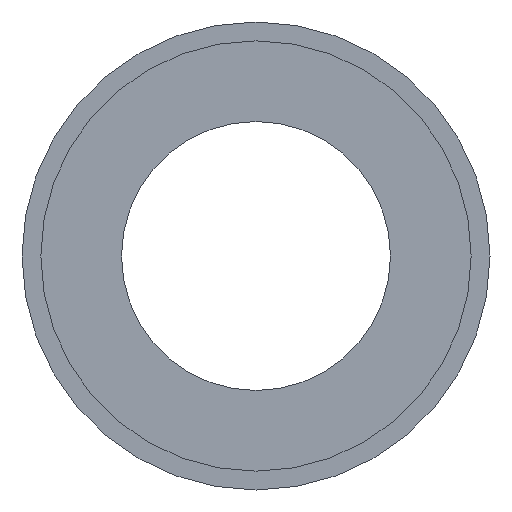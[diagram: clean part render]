
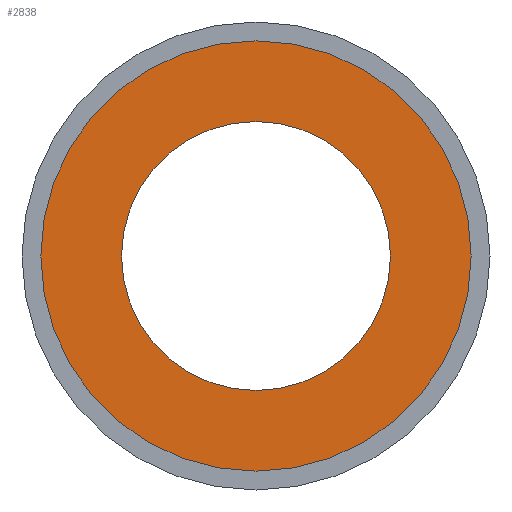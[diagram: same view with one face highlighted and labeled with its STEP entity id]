
A CAD part, front view. The second image highlights one B-rep face of the part: STEP entity #2838.
In plain terms, the highlighted planar face has unit normal (0, -1, 0).
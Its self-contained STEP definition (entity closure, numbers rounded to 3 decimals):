
#122 = VERTEX_POINT ( 'NONE', #2985 ) ;
#123 = ORIENTED_EDGE ( 'NONE', *, *, #2517, .T. ) ;
#223 = EDGE_CURVE ( 'NONE', #1942, #122, #3269, .T. ) ;
#232 = DIRECTION ( 'NONE',  ( 0., -1., 0. ) ) ;
#366 = DIRECTION ( 'NONE',  ( 0., -1., 0. ) ) ;
#479 = DIRECTION ( 'NONE',  ( 0., -1., 0. ) ) ;
#513 = DIRECTION ( 'NONE',  ( 0., 1., 0. ) ) ;
#769 = EDGE_LOOP ( 'NONE', ( #1909, #3235 ) ) ;
#1026 = CARTESIAN_POINT ( 'NONE',  ( 0., -16.5, 40. ) ) ;
#1032 = CIRCLE ( 'NONE', #1429, 25. ) ;
#1193 = AXIS2_PLACEMENT_3D ( 'NONE', #2305, #2558, #2807 ) ;
#1281 = AXIS2_PLACEMENT_3D ( 'NONE', #1834, #366, #1855 ) ;
#1303 = AXIS2_PLACEMENT_3D ( 'NONE', #3004, #513, #3023 ) ;
#1365 = EDGE_LOOP ( 'NONE', ( #1825, #123 ) ) ;
#1392 = FACE_BOUND ( 'NONE', #769, .T. ) ;
#1429 = AXIS2_PLACEMENT_3D ( 'NONE', #3027, #232, #2519 ) ;
#1584 = FACE_OUTER_BOUND ( 'NONE', #1365, .T. ) ;
#1816 = EDGE_CURVE ( 'NONE', #122, #1942, #1032, .T. ) ;
#1823 = VERTEX_POINT ( 'NONE', #1026 ) ;
#1825 = ORIENTED_EDGE ( 'NONE', *, *, #2815, .T. ) ;
#1834 = CARTESIAN_POINT ( 'NONE',  ( 0., -16.5, 0. ) ) ;
#1855 = DIRECTION ( 'NONE',  ( 0., 0., -1. ) ) ;
#1909 = ORIENTED_EDGE ( 'NONE', *, *, #223, .F. ) ;
#1942 = VERTEX_POINT ( 'NONE', #2911 ) ;
#1950 = CIRCLE ( 'NONE', #1281, 40. ) ;
#1969 = PLANE ( 'NONE',  #1303 ) ;
#2154 = CARTESIAN_POINT ( 'NONE',  ( 0., -16.5, -40. ) ) ;
#2180 = AXIS2_PLACEMENT_3D ( 'NONE', #3265, #479, #2501 ) ;
#2305 = CARTESIAN_POINT ( 'NONE',  ( 0., -16.5, 0. ) ) ;
#2501 = DIRECTION ( 'NONE',  ( 0., 0., -1. ) ) ;
#2517 = EDGE_CURVE ( 'NONE', #1823, #3045, #1950, .T. ) ;
#2519 = DIRECTION ( 'NONE',  ( 0., 0., -1. ) ) ;
#2558 = DIRECTION ( 'NONE',  ( 0., -1., 0. ) ) ;
#2807 = DIRECTION ( 'NONE',  ( 0., 0., -1. ) ) ;
#2815 = EDGE_CURVE ( 'NONE', #3045, #1823, #3272, .T. ) ;
#2838 = ADVANCED_FACE ( 'NONE', ( #1392, #1584 ), #1969, .F. ) ;
#2911 = CARTESIAN_POINT ( 'NONE',  ( 0., -16.5, -25. ) ) ;
#2985 = CARTESIAN_POINT ( 'NONE',  ( 0., -16.5, 25. ) ) ;
#3004 = CARTESIAN_POINT ( 'NONE',  ( 0., -16.5, 25. ) ) ;
#3023 = DIRECTION ( 'NONE',  ( 0., 0., 1. ) ) ;
#3027 = CARTESIAN_POINT ( 'NONE',  ( 0., -16.5, 0. ) ) ;
#3045 = VERTEX_POINT ( 'NONE', #2154 ) ;
#3235 = ORIENTED_EDGE ( 'NONE', *, *, #1816, .F. ) ;
#3265 = CARTESIAN_POINT ( 'NONE',  ( 0., -16.5, 0. ) ) ;
#3269 = CIRCLE ( 'NONE', #1193, 25. ) ;
#3272 = CIRCLE ( 'NONE', #2180, 40. ) ;
